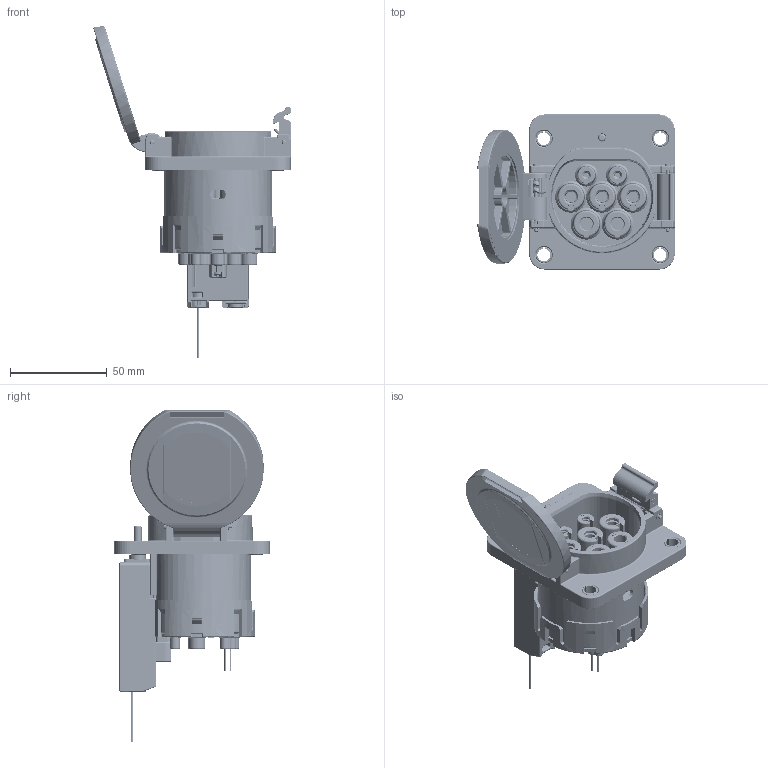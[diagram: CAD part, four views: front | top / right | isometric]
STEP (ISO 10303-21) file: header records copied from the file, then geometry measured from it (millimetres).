
FILE_DESCRIPTION((''),'2;1');
FILE_NAME('21G0-00026-A_SW0001','2023-03-31T10:34:17',('linrs'),(''),'CREO PARAMETRIC BY PTC INC, 2019224','CREO PARAMETRIC BY PTC INC, 2019224','');
FILE_SCHEMA(('CONFIG_CONTROL_DESIGN'));
Products named in the file (1): 21G0-00026-A_SW0001
Bounding box: 101.76 x 80 x 171.17 mm (x, y, z)
Volume: 181894.5 mm3; surface area: 87378.4 mm2
Topology: 2 solids, 2 shells, 4909 faces, 13073 edges, 8072 vertices
Faces by surface type: plane 1740, cylinder 1330, torus 649, bspline 438, cone 380, extrusion 268, sphere 102, revolution 2
Entity records: 176722 total; most frequent: CARTESIAN_POINT 56619, ORIENTED_EDGE 26058, DIRECTION 24177, EDGE_CURVE 13029, AXIS2_PLACEMENT_3D 8807, VERTEX_POINT 8072, VECTOR 6561, LINE 6293
